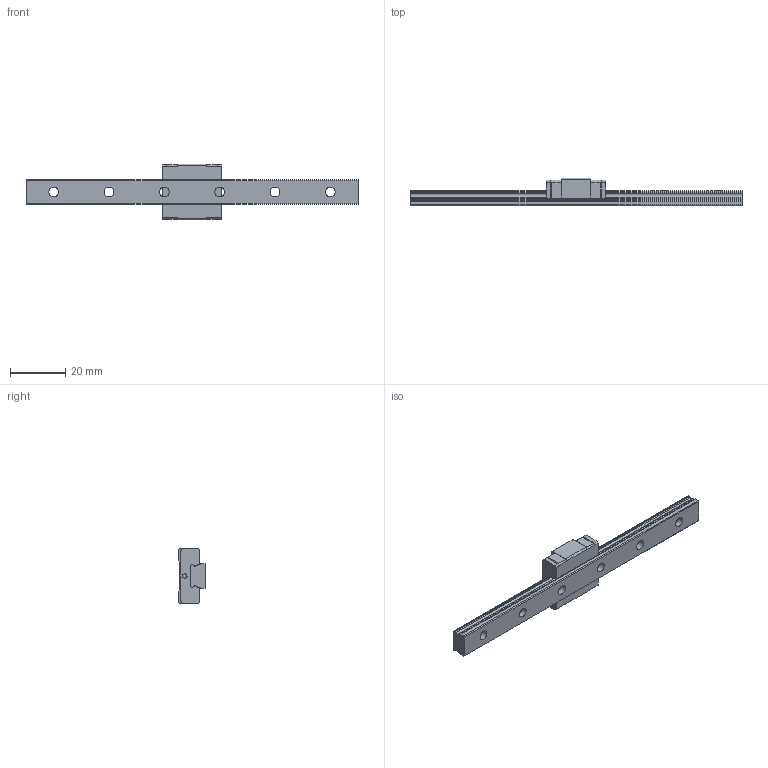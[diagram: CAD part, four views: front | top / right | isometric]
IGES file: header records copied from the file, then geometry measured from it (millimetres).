
Start section: Data from Parasolid IGES Translator 26.0.171, Copyright(c) 2006 Siemens PLM Software. All Rights Reserved.
Global section: file name: RSX9SMUU-120LM_G10_0_Without grease nipple_49-25_0_0_0_1.igs; native system: By Siemens PLM Incorporated; preprocessor: XPlus GENERIC/IGES 26.0.171; author: Noname; organization: Noname; date: 20240521.102516; units: millimetre
Bounding box: 120 x 10 x 20 mm (x, y, z)
Surface area: 5582 mm2 (no closed solid volume)
Topology: 0 solids, 0 shells, 126 faces, 682 edges, 652 vertices
Faces by surface type: extrusion 80, revolution 46
